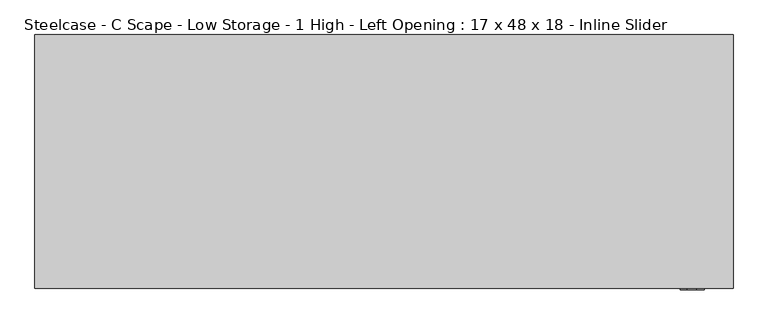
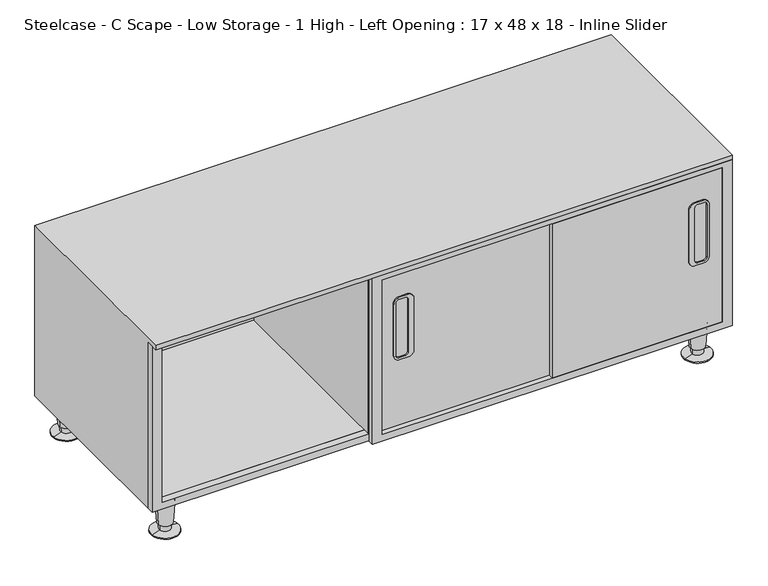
"""IFC4 building model written with IfcOpenShell, lengths in millimetres: furniture geometry, Steelcase - C Scape - Low Storage - 1 High - Left Opening : 17 x 48 x 18 - Inline Slider."""

import ifcopenshell
import ifcopenshell.guid

model = None  # the IFC model being written
_history = None  # IfcOwnerHistory: only IFC2X3 demands one
_inside = {}  # id of a spatial element -> (the spatial element, [elements in it])
_under = {}  # id of a project, library or spatial element -> (it, [spatial elements below it])
_declared = {}  # id of a project -> (the project, [libraries it declares])
_typed = {}  # id of a type object -> (the type object, [elements of that type])
_made_of = {}  # id of a material, layer set ... -> (it, [elements and type objects made of it])


def new_model(schema):
    """Start an empty IFC model of exactly this schema.

    Asked for "IFC4X3", IfcOpenShell would pick the latest addendum, in which some entities
    have other attributes; the version numbers below select the first issue.
    IFC2X3 requires an IfcOwnerHistory on every rooted entity: one is made here for all.
    """
    global model, _history
    if schema == "IFC4X3":
        model = ifcopenshell.file(schema_version=(4, 3, 0, 0))
    else:
        model = ifcopenshell.file(schema=schema)
    _inside.clear()
    _under.clear()
    _declared.clear()
    _typed.clear()
    _made_of.clear()
    _history = None
    if model.schema == "IFC2X3":
        org = make("IfcOrganization", Name="unknown")
        user = make(
            "IfcPersonAndOrganization",
            ThePerson=make("IfcPerson", FamilyName="unknown"),
            TheOrganization=org,
        )
        app = make(
            "IfcApplication",
            ApplicationDeveloper=org,
            Version="unknown",
            ApplicationFullName="unknown",
            ApplicationIdentifier="unknown",
        )
        _history = make(
            "IfcOwnerHistory",
            OwningUser=user,
            OwningApplication=app,
            ChangeAction="ADDED",
            CreationDate=0,
        )
    return model


def make(cls, **values):
    """One entity of the class cls with the attributes given. An attribute that is None is left unset."""
    return model.create_entity(
        cls, **{name: value for name, value in values.items() if value is not None}
    )


def rooted(cls, **values):
    """An entity with a GlobalId (a new one), such as an element, a storey or a relation."""
    return make(cls, GlobalId=ifcopenshell.guid.new(), OwnerHistory=_history, **values)


def si_unit(unit_type, name, prefix=None):
    """IfcSIUnit, for example si_unit("LENGTHUNIT", "METRE", prefix="MILLI")."""
    return make("IfcSIUnit", UnitType=unit_type, Prefix=prefix, Name=name)


def assignment(units):
    """IfcUnitAssignment: the units of a project."""
    return None if units is None else make("IfcUnitAssignment", Units=units)


def point(xyz):
    """IfcCartesianPoint."""
    return None if xyz is None else make("IfcCartesianPoint", Coordinates=xyz)


def direction(xyz):
    """IfcDirection."""
    return None if xyz is None else make("IfcDirection", DirectionRatios=xyz)


def frame(location, z_axis=None, x_axis=None):
    """IfcAxis2Placement3D, a coordinate frame: its origin and axes. An axis left out is left unset."""
    return make(
        "IfcAxis2Placement3D",
        Location=point(location),
        Axis=direction(z_axis),
        RefDirection=direction(x_axis),
    )


def frame_2d(location, x_axis=None):
    """IfcAxis2Placement2D, a coordinate frame in the plane: its origin and x axis."""
    return make(
        "IfcAxis2Placement2D", Location=point(location), RefDirection=direction(x_axis)
    )


def origin():
    """The frame at (0, 0, 0) with its axes left unset."""
    return frame((0.0, 0.0, 0.0))


def place(relative_to, where):
    """IfcLocalPlacement: puts the frame where relative to a parent placement (None: the world)."""
    return make(
        "IfcLocalPlacement", PlacementRelTo=relative_to, RelativePlacement=where
    )


def context(
    kind, dimensions, precision=None, world=None, true_north=None, identifier=None
):
    """IfcGeometricRepresentationContext, for example the 3D "Model" context."""
    return make(
        "IfcGeometricRepresentationContext",
        ContextIdentifier=identifier,
        ContextType=kind,
        CoordinateSpaceDimension=dimensions,
        Precision=precision,
        WorldCoordinateSystem=world,
        TrueNorth=true_north,
    )


def project(units=None, contexts=None):
    """IfcProject with its units and contexts."""
    return rooted(
        "IfcProject",
        Name="project",
        RepresentationContexts=contexts,
        UnitsInContext=assignment(units),
    )


def spatial(cls, under=None, at=None, **own):
    """A site, building, storey or space (cls), placed at a placement, below another one or the project."""
    s = rooted(cls, ObjectPlacement=at, **own)
    if under is not None:
        _under.setdefault(under.id(), (under, []))[1].append(s)
    return s


def polyline(points):
    """IfcPolyline through the points."""
    return make("IfcPolyline", Points=[point(p) for p in points])


def circle_curve(where, radius):
    """IfcCircle in the frame where."""
    return make("IfcCircle", Position=where, Radius=radius)


def trimmed(basis, trim1, trim2, sense, master):
    """IfcTrimmedCurve: the piece of a basis curve between two trims."""
    return make(
        "IfcTrimmedCurve",
        BasisCurve=basis,
        Trim1=trim1,
        Trim2=trim2,
        SenseAgreement=sense,
        MasterRepresentation=master,
    )


def segment(curve, same_sense, transition):
    """IfcCompositeCurveSegment."""
    return make(
        "IfcCompositeCurveSegment",
        Transition=transition,
        SameSense=same_sense,
        ParentCurve=curve,
    )


def composite_curve(segments, self_intersect=None):
    """IfcCompositeCurve: segments joined end to end."""
    return make("IfcCompositeCurve", Segments=segments, SelfIntersect=self_intersect)


def outline(outer, holes=None, kind="AREA"):
    """IfcArbitraryClosedProfileDef: a profile drawn as a closed curve; with holes, ...WithVoids."""
    if holes is None:
        return make("IfcArbitraryClosedProfileDef", ProfileType=kind, OuterCurve=outer)
    return make(
        "IfcArbitraryProfileDefWithVoids",
        ProfileType=kind,
        OuterCurve=outer,
        InnerCurves=holes,
    )


def extrude(swept, where, along, depth):
    """IfcExtrudedAreaSolid: the profile swept, set in the frame where, extruded along a direction by depth."""
    return make(
        "IfcExtrudedAreaSolid",
        SweptArea=swept,
        Position=where,
        ExtrudedDirection=direction(along),
        Depth=depth,
    )


def faces_of(points, faces, orient=None, outer=None):
    """IfcFace entities. A face is a list of loops; a loop is a list of indices into points, from 0.

    orient and outer hold one flag for each loop. By default every Orientation is true, the
    first loop of a face is its IfcFaceOuterBound and the others are IfcFaceBound.
    """
    made = []
    for i, loops in enumerate(faces):
        bounds = []
        for j, loop in enumerate(loops):
            is_outer = j == 0 if outer is None else outer[i][j]
            bounds.append(
                make(
                    "IfcFaceOuterBound" if is_outer else "IfcFaceBound",
                    Bound=make("IfcPolyLoop", Polygon=[points[k] for k in loop]),
                    Orientation=True if orient is None else orient[i][j],
                )
            )
        made.append(make("IfcFace", Bounds=bounds))
    return made


def faceted_brep(points, faces, orient=None, outer=None, voids=None):
    """IfcFacetedBrep: a solid bounded by flat faces; with voids (closed shells), ...WithVoids."""
    shared = [point(p) for p in points]
    hull = make("IfcClosedShell", CfsFaces=faces_of(shared, faces, orient, outer))
    if voids is None:
        return make("IfcFacetedBrep", Outer=hull)
    return make(
        "IfcFacetedBrepWithVoids",
        Outer=hull,
        Voids=[
            make(cls, CfsFaces=faces_of(shared, fs, o, b)) for cls, fs, o, b in voids
        ],
    )


def shape(context_of_items, identifier, shape_type, items):
    """IfcShapeRepresentation: the items that make up one representation, for example the "Body"."""
    return make(
        "IfcShapeRepresentation",
        ContextOfItems=context_of_items,
        RepresentationIdentifier=identifier,
        RepresentationType=shape_type,
        Items=items,
    )


def source(mapping_origin, context_of_items, identifier, shape_type, items):
    """IfcRepresentationMap: a shape defined once, which mapped items show again and again."""
    return make(
        "IfcRepresentationMap",
        MappingOrigin=mapping_origin,
        MappedRepresentation=shape(context_of_items, identifier, shape_type, items),
    )


def transform(
    local_origin,
    x_axis=None,
    y_axis=None,
    z_axis=None,
    scale=None,
    scale2=None,
    scale3=None,
    uniform=True,
):
    """IfcCartesianTransformationOperator3D, or its non-uniform kind. x_axis, y_axis, z_axis: its Axis1, 2, 3."""
    if uniform:
        return make(
            "IfcCartesianTransformationOperator3D",
            Axis1=direction(x_axis),
            Axis2=direction(y_axis),
            LocalOrigin=point(local_origin),
            Scale=scale,
            Axis3=direction(z_axis),
        )
    return make(
        "IfcCartesianTransformationOperator3DnonUniform",
        Axis1=direction(x_axis),
        Axis2=direction(y_axis),
        LocalOrigin=point(local_origin),
        Scale=scale,
        Axis3=direction(z_axis),
        Scale2=scale2,
        Scale3=scale3,
    )


def mapped(mapping_source, mapping_target):
    """IfcMappedItem: shows the shape of a source again, moved by a transform."""
    return make(
        "IfcMappedItem", MappingSource=mapping_source, MappingTarget=mapping_target
    )


def made_of(thing, what):
    """Note that an element or type object is made of a material, layer set ...; save() writes the relation."""
    if what is not None:
        _made_of.setdefault(what.id(), (what, []))[1].append(thing)
    return thing


def element(
    cls,
    number,
    at=None,
    inside=None,
    cuts=None,
    type_object=None,
    material=None,
    context=None,
    identifier="Body",
    shape_type=None,
    held_by="IfcProductDefinitionShape",
    body=None,
    shapes=None,
    **own,
):
    """One element of the class cls, such as IfcWall. Its Tag is "e" and its number.

    at: its placement. inside: the storey or other place that contains it. cuts: it is an
    opening in that element (IfcRelVoidsElement). A single representation is given by context,
    identifier, shape_type and body (its items); several are given by shapes. held_by: the class
    of the entity that holds the representations. save() writes the other relations.
    """
    e = rooted(cls, Tag="e%d" % number, ObjectPlacement=at, **own)
    if body is not None:
        shapes = [shape(context, identifier, shape_type, body)]
    if shapes is not None:
        e.Representation = make(held_by, Representations=shapes)
    if inside is not None:
        _inside.setdefault(inside.id(), (inside, []))[1].append(e)
    if cuts is not None:
        rooted(
            "IfcRelVoidsElement", RelatingBuildingElement=cuts, RelatedOpeningElement=e
        )
    if type_object is not None:
        _typed.setdefault(type_object.id(), (type_object, []))[1].append(e)
    return made_of(e, material)


def aggregate(whole, parts):
    """IfcRelAggregates: a whole, such as a stair, and the parts it consists of."""
    return rooted("IfcRelAggregates", RelatingObject=whole, RelatedObjects=parts)


def save(model, path):
    """Write the relations noted so far, then the file.

    IfcRelAggregates (storeys below a building ...), IfcRelContainedInSpatialStructure (elements
    in a storey), IfcRelDefinesByType, IfcRelAssociatesMaterial and IfcRelDeclares: one each for
    every whole, place, type object, material and project.
    """
    for whole, parts in _under.values():
        aggregate(whole, parts)
    for where, things in _inside.values():
        rooted(
            "IfcRelContainedInSpatialStructure",
            RelatedElements=things,
            RelatingStructure=where,
        )
    for kind, things in _typed.values():
        rooted("IfcRelDefinesByType", RelatedObjects=things, RelatingType=kind)
    for what, things in _made_of.values():
        rooted("IfcRelAssociatesMaterial", RelatedObjects=things, RelatingMaterial=what)
    for by, libraries in _declared.values():
        rooted("IfcRelDeclares", RelatingContext=by, RelatedDefinitions=libraries)
    model.write(path)


def plane_surface(at):
    """IfcPlane: the flat surface through the origin of the frame at, square to its z axis."""
    return make("IfcPlane", Position=at)


def cylinder_surface(at, radius):
    """IfcCylindricalSurface: all points at the distance radius from the z axis of the frame at."""
    return make("IfcCylindricalSurface", Position=at, Radius=radius)


def revolved_surface(curve, axis_point, axis_direction):
    """IfcSurfaceOfRevolution: the curve turned about the line through axis_point along axis_direction."""
    return make(
        "IfcSurfaceOfRevolution",
        SweptCurve=make("IfcArbitraryOpenProfileDef", ProfileType="CURVE", Curve=curve),
        AxisPosition=make("IfcAxis1Placement", Location=point(axis_point), Axis=direction(axis_direction)),
    )


def advanced_brep(points, edges, surfaces, faces):
    """IfcAdvancedBrep: a solid bounded by faces that lie on surfaces and meet in shared edges.

    An edge is (start, end): straight between two places in points (the first is 0);
    or (start, end, curve); or (start, end, curve, False) where it runs against its curve.
    A face is (place in surfaces, loops), or (place, loops, False) where it looks against
    its surface's normal. A loop lists edges by number (the first is 1), with a minus sign
    where the edge is run from its end to its start. The first loop is the outer one.
    """
    corners = [point(p) for p in points]
    vertices = [make("IfcVertexPoint", VertexGeometry=c) for c in corners]
    made = []
    for start, end, *more in edges:
        made.append(
            make(
                "IfcEdgeCurve",
                EdgeStart=vertices[start],
                EdgeEnd=vertices[end],
                EdgeGeometry=more[0] if more else make("IfcPolyline", Points=[corners[start], corners[end]]),
                SameSense=more[1] if len(more) > 1 else True,
            )
        )
    hull = []
    for where, loops, *sense in faces:
        bounds = []
        for j, loop in enumerate(loops):
            ring = [make("IfcOrientedEdge", EdgeElement=made[abs(k) - 1], Orientation=k > 0) for k in loop]
            bounds.append(
                make(
                    "IfcFaceOuterBound" if j == 0 else "IfcFaceBound",
                    Bound=make("IfcEdgeLoop", EdgeList=ring),
                    Orientation=True,
                )
            )
        hull.append(make("IfcAdvancedFace", Bounds=bounds, FaceSurface=surfaces[where], SameSense=sense[0] if sense else True))
    return make("IfcAdvancedBrep", Outer=make("IfcClosedShell", CfsFaces=hull))


def steelcase_c_scape_low_storage_1_high_left_opening_17_x_48_x_6d4769d7(model_context):
    return source(origin(), model_context, "Body", "SolidModel", [
        extrude(outline(polyline([(447.0400097, 1217.93), (447.0400097, 457.1996899), (76.2, 457.1996899), (76.2, 1217.93), (447.0400097, 1217.93)]), holes=[polyline([(91.44, 1196.5917676), (91.44, 478.7877454), (436.2787937, 478.7877454), (436.2787937, 1196.5917676), (91.44, 1196.5917676)])]), frame((0.0, -442.5949322, 0.0), z_axis=(0.0, 1.0, 0.0), x_axis=(0.0, 0.0, 1.0)), (0.0, 0.0, 1.0), 10.5409322),
        extrude(outline(composite_curve([segment(trimmed(circle_curve(frame_2d((366.3470063, 1154.9398205)), 12.6992249), [point((366.3470063, 1167.6390454))], [point((379.0462312, 1154.9398205))], False, "CARTESIAN"), True, "CONTINUOUS"), segment(polyline([(379.0462312, 1154.9398205), (379.0462312, 1138.0478284)]), True, "CONTINUOUS"), segment(trimmed(circle_curve(frame_2d((366.3470063, 1138.0478284)), 12.6992249), [point((379.0462312, 1138.0478284))], [point((366.3470063, 1125.3486035))], False, "CARTESIAN"), True, "CONTINUOUS"), segment(polyline([(366.3470063, 1125.3486035), (251.6988661, 1125.3486035)]), True, "CONTINUOUS"), segment(trimmed(circle_curve(frame_2d((251.6988661, 1137.7059622)), 12.3573587), [point((251.6988661, 1125.3486035))], [point((239.3462372, 1138.0478284))], False, "CARTESIAN"), True, "CONTINUOUS"), segment(polyline([(239.3462372, 1138.0478284), (239.3462372, 1154.9398205)]), True, "CONTINUOUS"), segment(trimmed(circle_curve(frame_2d((252.0454621, 1154.9398205)), 12.6992249), [point((239.3462372, 1154.9398205))], [point((252.0454621, 1167.6390454))], False, "CARTESIAN"), True, "CONTINUOUS"), segment(polyline([(252.0454621, 1167.6390454), (366.3470063, 1167.6390454)]), True, "CONTINUOUS")], self_intersect=False), holes=[composite_curve([segment(polyline([(250.520973, 1137.4129834), (367.8674077, 1137.4129834)]), True, "CONTINUOUS"), segment(trimmed(circle_curve(frame_2d((367.8674077, 1143.7637585)), 6.3507751), [point((367.8674077, 1137.4129834))], [point((374.2181828, 1143.7637585))], True, "CARTESIAN"), True, "CONTINUOUS"), segment(polyline([(374.2181828, 1143.7637585), (374.2181828, 1156.4629834)]), True, "CONTINUOUS"), segment(trimmed(circle_curve(frame_2d((367.8674077, 1156.4629834)), 6.3507751), [point((374.2181828, 1156.4629834))], [point((367.8674077, 1162.8137585))], True, "CARTESIAN"), True, "CONTINUOUS"), segment(polyline([(367.8674077, 1162.8137585), (250.520973, 1162.8137585)]), True, "CONTINUOUS"), segment(trimmed(circle_curve(frame_2d((250.520973, 1156.4629834)), 6.3507751), [point((250.520973, 1162.8137585))], [point((244.1701979, 1156.4629834))], True, "CARTESIAN"), True, "CONTINUOUS"), segment(polyline([(244.1701979, 1156.4629834), (244.1701979, 1143.7637585)]), True, "CONTINUOUS"), segment(trimmed(circle_curve(frame_2d((250.520973, 1143.7637585)), 6.3507751), [point((244.1701979, 1143.7637585))], [point((250.520973, 1137.4129834))], True, "CARTESIAN"), True, "CONTINUOUS")], self_intersect=False)]), frame((0.0, -445.643, 0.0), z_axis=(0.0, 1.0, 0.0), x_axis=(0.0, 0.0, 1.0)), (0.0, 0.0, 1.0), 3.0480678),
        extrude(outline(composite_curve([segment(polyline([(366.3470063, 507.4906445), (252.0454621, 507.4906445)]), True, "CONTINUOUS"), segment(trimmed(circle_curve(frame_2d((252.0454621, 520.1898694)), 12.6992249), [point((252.0454621, 507.4906445))], [point((239.3462372, 520.1898694))], False, "CARTESIAN"), True, "CONTINUOUS"), segment(polyline([(239.3462372, 520.1898694), (239.3462372, 537.0818616)]), True, "CONTINUOUS"), segment(trimmed(circle_curve(frame_2d((251.6988661, 537.4237278)), 12.3573587), [point((239.3462372, 537.0818616))], [point((251.6988661, 549.7810864))], False, "CARTESIAN"), True, "CONTINUOUS"), segment(polyline([(251.6988661, 549.7810864), (366.3470063, 549.7810864)]), True, "CONTINUOUS"), segment(trimmed(circle_curve(frame_2d((366.3470063, 537.0818616)), 12.6992249), [point((366.3470063, 549.7810864))], [point((379.0462312, 537.0818616))], False, "CARTESIAN"), True, "CONTINUOUS"), segment(polyline([(379.0462312, 537.0818616), (379.0462312, 520.1898694)]), True, "CONTINUOUS"), segment(trimmed(circle_curve(frame_2d((366.3470063, 520.1898694)), 12.6992249), [point((379.0462312, 520.1898694))], [point((366.3470063, 507.4906445))], False, "CARTESIAN"), True, "CONTINUOUS")], self_intersect=False), holes=[composite_curve([segment(trimmed(circle_curve(frame_2d((250.520973, 531.3659314)), 6.3507751), [point((250.520973, 537.7167066))], [point((244.1701979, 531.3659314))], True, "CARTESIAN"), True, "CONTINUOUS"), segment(polyline([(244.1701979, 531.3659314), (244.1701979, 518.6667066)]), True, "CONTINUOUS"), segment(trimmed(circle_curve(frame_2d((250.520973, 518.6667066)), 6.3507751), [point((244.1701979, 518.6667066))], [point((250.520973, 512.3159314))], True, "CARTESIAN"), True, "CONTINUOUS"), segment(polyline([(250.520973, 512.3159314), (367.8674077, 512.3159314)]), True, "CONTINUOUS"), segment(trimmed(circle_curve(frame_2d((367.8674077, 518.6667066)), 6.3507751), [point((367.8674077, 512.3159314))], [point((374.2181828, 518.6667066))], True, "CARTESIAN"), True, "CONTINUOUS"), segment(polyline([(374.2181828, 518.6667066), (374.2181828, 531.3659314)]), True, "CONTINUOUS"), segment(trimmed(circle_curve(frame_2d((367.8674077, 531.3659314)), 6.3507751), [point((374.2181828, 531.3659314))], [point((367.8674077, 537.7167066))], True, "CARTESIAN"), True, "CONTINUOUS"), segment(polyline([(367.8674077, 537.7167066), (250.520973, 537.7167066)]), True, "CONTINUOUS")], self_intersect=False)]), frame((0.0, -435.0550827, 0.0), z_axis=(0.0, 1.0, 0.0), x_axis=(0.0, 0.0, 1.0)), (0.0, 0.0, 1.0), 3.0010827),
        extrude(outline(polyline([(447.0400097, 1217.93), (447.0400097, -0.0013237), (76.2, -0.0013237), (76.2, 1217.93), (447.0400097, 1217.93)]), holes=[polyline([(91.44, 21.3369088), (436.2449927, 21.3369088), (436.2449927, 1196.5917676), (91.44, 1196.5917676), (91.44, 21.3369088)])]), frame((0.0, -428.8790543, 0.0), z_axis=(0.0, 1.0, 0.0), x_axis=(0.0, 0.0, 1.0)), (0.0, 0.0, 1.0), 14.986226),
        advanced_brep(
        [(1190.0494568, -31.5218435, 76.2), (1152.3877179, -37.2840847, 76.2), (1171.2185874, -34.4029641, 76.2), (1186.0991088, -32.1262463, 19.05), (1156.3380659, -36.6796819, 19.05), (1183.6695219, -32.4979728, 19.05), (1158.7676529, -36.3079555, 19.05), (1182.9807524, -32.6033544, 5.7545598), (1159.4564224, -36.2025738, 5.7545598), (1200.3296359, -29.9489775, 2.5119506), (1142.1075389, -38.8569507, 2.5119506), (1200.3296359, -29.9489775, 0.0), (1142.1075389, -38.8569507, 0.0), (1171.2185874, -34.4029641, 0.0)],
        [
            (0, 1, circle_curve(frame((1171.2185874, -34.4029641, 76.2), z_axis=(0.0, 0.0, 1.0), x_axis=(0.0, -1.0, 0.0)), 19.05)),
            (1, 2),
            (2, 0),
            (1, 0, circle_curve(frame((1171.2185874, -34.4029641, 76.2), z_axis=(0.0, 0.0, 1.0), x_axis=(0.0, -1.0, 0.0)), 19.05)),
            (3, 4, circle_curve(frame((1171.2185874, -34.4029641, 19.05), z_axis=(0.0, 0.0, 1.0), x_axis=(0.0, -1.0, 0.0)), 15.0536827)),
            (4, 1),
            (0, 3),
            (4, 3, circle_curve(frame((1171.2185874, -34.4029641, 19.05), z_axis=(0.0, 0.0, 1.0), x_axis=(0.0, -1.0, 0.0)), 15.0536827)),
            (5, 6, circle_curve(frame((1171.2185874, -34.4029641, 19.05), z_axis=(0.0, 0.0, 1.0), x_axis=(0.0, -1.0, 0.0)), 12.5958232)),
            (6, 4),
            (3, 5),
            (6, 5, circle_curve(frame((1171.2185874, -34.4029641, 19.05), z_axis=(0.0, 0.0, 1.0), x_axis=(0.0, -1.0, 0.0)), 12.5958232)),
            (7, 8, circle_curve(frame((1171.2185874, -34.4029641, 5.7545598), z_axis=(0.0, 0.0, 1.0), x_axis=(0.0, -1.0, 0.0)), 11.8990387)),
            (8, 6),
            (5, 7),
            (8, 7, circle_curve(frame((1171.2185874, -34.4029641, 5.7545598), z_axis=(0.0, 0.0, 1.0), x_axis=(0.0, -1.0, 0.0)), 11.8990387)),
            (9, 10, circle_curve(frame((1171.2185874, -34.4029641, 2.5119506), z_axis=(0.0, 0.0, 1.0), x_axis=(0.0, -1.0, 0.0)), 29.4498071)),
            (10, 8),
            (7, 9),
            (10, 9, circle_curve(frame((1171.2185874, -34.4029641, 2.5119506), z_axis=(0.0, 0.0, 1.0), x_axis=(0.0, -1.0, 0.0)), 29.4498071)),
            (11, 12, circle_curve(frame((1171.2185874, -34.4029641, 0.0), z_axis=(0.0, 0.0, 1.0), x_axis=(0.0, -1.0, 0.0)), 29.4498071)),
            (12, 10),
            (9, 11),
            (12, 11, circle_curve(frame((1171.2185874, -34.4029641, 0.0), z_axis=(0.0, 0.0, 1.0), x_axis=(0.0, -1.0, 0.0)), 29.4498071)),
            (13, 12),
            (11, 13),
        ],
        [
            plane_surface(frame((1171.2185874, -34.4029641, 76.2), z_axis=(0.0, 0.0, 1.0), x_axis=(0.0, -1.0, 0.0))),
            revolved_surface(polyline([(1171.2185874, -53.4529641, 76.2), (1171.2185874, -49.4566468, 19.05)]), (1171.2185874, -34.4029641, 25.4), (0.0, 0.0, -1.0)),
            plane_surface(frame((1171.2185874, -34.4029641, 19.05), z_axis=(0.0, 0.0, -1.0), x_axis=(0.0, -1.0, 0.0))),
            revolved_surface(polyline([(1171.2185874, -46.9987873, 19.05), (1171.2185874, -46.3020028, 5.7545598)]), (1171.2185874, -34.4029641, 25.4), (0.0, 0.0, -1.0)),
            revolved_surface(polyline([(1171.2185874, -46.3020028, 5.7545598), (1171.2185874, -63.8527712, 2.5119506)]), (1171.2185874, -34.4029641, 25.4), (0.0, 0.0, -1.0)),
            cylinder_surface(frame((1171.2185874, -34.4029641, 25.4), z_axis=(0.0, 0.0, -1.0), x_axis=(0.0, -1.0, 0.0)), 29.4498071),
            plane_surface(frame((1171.2185874, -34.4029641, 0.0), z_axis=(0.0, 0.0, -1.0), x_axis=(0.0, -1.0, 0.0))),
        ],
        [
            (0, [[1, 2, 3]]),
            (0, [[4, -3, -2]]),
            (1, [[5, 6, -1, 7]]),
            (1, [[8, -7, -4, -6]]),
            (2, [[9, 10, -5, 11]]),
            (2, [[12, -11, -8, -10]]),
            (3, [[13, 14, -9, 15]]),
            (3, [[16, -15, -12, -14]]),
            (4, [[17, 18, -13, 19]]),
            (4, [[20, -19, -16, -18]]),
            (5, [[21, 22, -17, 23]]),
            (5, [[24, -23, -20, -22]]),
            (6, [[25, -21, 26]]),
            (6, [[-26, -24, -25]]),
        ],
    ),
        advanced_brep(
        [(1190.0494568, -392.9793305, 76.2), (1152.3877179, -398.7415716, 76.2), (1171.2185874, -395.8604511, 76.2), (1186.0991088, -393.5837332, 19.05), (1156.3380659, -398.1371689, 19.05), (1183.6695219, -393.9554597, 19.05), (1158.7676529, -397.7654424, 19.05), (1182.9807524, -394.0608413, 5.7545598), (1159.4564224, -397.6600608, 5.7545598), (1200.3296359, -391.4064644, 2.5119506), (1142.1075389, -400.3144377, 2.5119506), (1200.3296359, -391.4064644, 0.0), (1142.1075389, -400.3144377, 0.0), (1171.2185874, -395.8604511, 0.0)],
        [
            (0, 1, circle_curve(frame((1171.2185874, -395.8604511, 76.2), z_axis=(0.0, 0.0, 1.0), x_axis=(0.0, -1.0, 0.0)), 19.05)),
            (1, 2),
            (2, 0),
            (1, 0, circle_curve(frame((1171.2185874, -395.8604511, 76.2), z_axis=(0.0, 0.0, 1.0), x_axis=(0.0, -1.0, 0.0)), 19.05)),
            (3, 4, circle_curve(frame((1171.2185874, -395.8604511, 19.05), z_axis=(0.0, 0.0, 1.0), x_axis=(0.0, -1.0, 0.0)), 15.0536827)),
            (4, 1),
            (0, 3),
            (4, 3, circle_curve(frame((1171.2185874, -395.8604511, 19.05), z_axis=(0.0, 0.0, 1.0), x_axis=(0.0, -1.0, 0.0)), 15.0536827)),
            (5, 6, circle_curve(frame((1171.2185874, -395.8604511, 19.05), z_axis=(0.0, 0.0, 1.0), x_axis=(0.0, -1.0, 0.0)), 12.5958232)),
            (6, 4),
            (3, 5),
            (6, 5, circle_curve(frame((1171.2185874, -395.8604511, 19.05), z_axis=(0.0, 0.0, 1.0), x_axis=(0.0, -1.0, 0.0)), 12.5958232)),
            (7, 8, circle_curve(frame((1171.2185874, -395.8604511, 5.7545598), z_axis=(0.0, 0.0, 1.0), x_axis=(0.0, -1.0, 0.0)), 11.8990387)),
            (8, 6),
            (5, 7),
            (8, 7, circle_curve(frame((1171.2185874, -395.8604511, 5.7545598), z_axis=(0.0, 0.0, 1.0), x_axis=(0.0, -1.0, 0.0)), 11.8990387)),
            (9, 10, circle_curve(frame((1171.2185874, -395.8604511, 2.5119506), z_axis=(0.0, 0.0, 1.0), x_axis=(0.0, -1.0, 0.0)), 29.4498071)),
            (10, 8),
            (7, 9),
            (10, 9, circle_curve(frame((1171.2185874, -395.8604511, 2.5119506), z_axis=(0.0, 0.0, 1.0), x_axis=(0.0, -1.0, 0.0)), 29.4498071)),
            (11, 12, circle_curve(frame((1171.2185874, -395.8604511, 0.0), z_axis=(0.0, 0.0, 1.0), x_axis=(0.0, -1.0, 0.0)), 29.4498071)),
            (12, 10),
            (9, 11),
            (12, 11, circle_curve(frame((1171.2185874, -395.8604511, 0.0), z_axis=(0.0, 0.0, 1.0), x_axis=(0.0, -1.0, 0.0)), 29.4498071)),
            (13, 12),
            (11, 13),
        ],
        [
            plane_surface(frame((1171.2185874, -395.8604511, 76.2), z_axis=(0.0, 0.0, 1.0), x_axis=(0.0, -1.0, 0.0))),
            revolved_surface(polyline([(1171.2185874, -414.9104511, 76.2), (1171.2185874, -410.9141338, 19.05)]), (1171.2185874, -395.8604511, 25.4), (0.0, 0.0, -1.0)),
            plane_surface(frame((1171.2185874, -395.8604511, 19.05), z_axis=(0.0, 0.0, -1.0), x_axis=(0.0, -1.0, 0.0))),
            revolved_surface(polyline([(1171.2185874, -408.4562742, 19.05), (1171.2185874, -407.7594897, 5.7545598)]), (1171.2185874, -395.8604511, 25.4), (0.0, 0.0, -1.0)),
            revolved_surface(polyline([(1171.2185874, -407.7594897, 5.7545598), (1171.2185874, -425.3102582, 2.5119506)]), (1171.2185874, -395.8604511, 25.4), (0.0, 0.0, -1.0)),
            cylinder_surface(frame((1171.2185874, -395.8604511, 25.4), z_axis=(0.0, 0.0, -1.0), x_axis=(0.0, -1.0, 0.0)), 29.4498071),
            plane_surface(frame((1171.2185874, -395.8604511, 0.0), z_axis=(0.0, 0.0, -1.0), x_axis=(0.0, -1.0, 0.0))),
        ],
        [
            (0, [[1, 2, 3]]),
            (0, [[4, -3, -2]]),
            (1, [[5, 6, -1, 7]]),
            (1, [[8, -7, -4, -6]]),
            (2, [[9, 10, -5, 11]]),
            (2, [[12, -11, -8, -10]]),
            (3, [[13, 14, -9, 15]]),
            (3, [[16, -15, -12, -14]]),
            (4, [[17, 18, -13, 19]]),
            (4, [[20, -19, -16, -18]]),
            (5, [[21, 22, -17, 23]]),
            (5, [[24, -23, -20, -22]]),
            (6, [[25, -21, 26]]),
            (6, [[-26, -24, -25]]),
        ],
    ),
        advanced_brep(
        [(64.9305458, -392.9793305, 76.2), (27.2688069, -398.7415716, 76.2), (46.0996763, -395.8604511, 76.2), (60.9801978, -393.5837332, 19.05), (31.2191549, -398.1371689, 19.05), (58.5506108, -393.9554597, 19.05), (33.6487419, -397.7654424, 19.05), (57.8618414, -394.0608413, 5.7545598), (34.3375113, -397.6600608, 5.7545598), (75.2107248, -391.4064644, 2.5119506), (16.9886279, -400.3144377, 2.5119506), (75.2107248, -391.4064644, 0.0), (16.9886279, -400.3144377, 0.0), (46.0996763, -395.8604511, 0.0)],
        [
            (0, 1, circle_curve(frame((46.0996763, -395.8604511, 76.2), z_axis=(0.0, 0.0, 1.0), x_axis=(0.0, -1.0, 0.0)), 19.05)),
            (1, 2),
            (2, 0),
            (1, 0, circle_curve(frame((46.0996763, -395.8604511, 76.2), z_axis=(0.0, 0.0, 1.0), x_axis=(0.0, -1.0, 0.0)), 19.05)),
            (3, 4, circle_curve(frame((46.0996763, -395.8604511, 19.05), z_axis=(0.0, 0.0, 1.0), x_axis=(0.0, -1.0, 0.0)), 15.0536827)),
            (4, 1),
            (0, 3),
            (4, 3, circle_curve(frame((46.0996763, -395.8604511, 19.05), z_axis=(0.0, 0.0, 1.0), x_axis=(0.0, -1.0, 0.0)), 15.0536827)),
            (5, 6, circle_curve(frame((46.0996763, -395.8604511, 19.05), z_axis=(0.0, 0.0, 1.0), x_axis=(0.0, -1.0, 0.0)), 12.5958232)),
            (6, 4),
            (3, 5),
            (6, 5, circle_curve(frame((46.0996763, -395.8604511, 19.05), z_axis=(0.0, 0.0, 1.0), x_axis=(0.0, -1.0, 0.0)), 12.5958232)),
            (7, 8, circle_curve(frame((46.0996763, -395.8604511, 5.7545598), z_axis=(0.0, 0.0, 1.0), x_axis=(0.0, -1.0, 0.0)), 11.8990387)),
            (8, 6),
            (5, 7),
            (8, 7, circle_curve(frame((46.0996763, -395.8604511, 5.7545598), z_axis=(0.0, 0.0, 1.0), x_axis=(0.0, -1.0, 0.0)), 11.8990387)),
            (9, 10, circle_curve(frame((46.0996763, -395.8604511, 2.5119506), z_axis=(0.0, 0.0, 1.0), x_axis=(0.0, -1.0, 0.0)), 29.4498071)),
            (10, 8),
            (7, 9),
            (10, 9, circle_curve(frame((46.0996763, -395.8604511, 2.5119506), z_axis=(0.0, 0.0, 1.0), x_axis=(0.0, -1.0, 0.0)), 29.4498071)),
            (11, 12, circle_curve(frame((46.0996763, -395.8604511, 0.0), z_axis=(0.0, 0.0, 1.0), x_axis=(0.0, -1.0, 0.0)), 29.4498071)),
            (12, 10),
            (9, 11),
            (12, 11, circle_curve(frame((46.0996763, -395.8604511, 0.0), z_axis=(0.0, 0.0, 1.0), x_axis=(0.0, -1.0, 0.0)), 29.4498071)),
            (13, 12),
            (11, 13),
        ],
        [
            plane_surface(frame((46.0996763, -395.8604511, 76.2), z_axis=(0.0, 0.0, 1.0), x_axis=(0.0, -1.0, 0.0))),
            revolved_surface(polyline([(46.0996763, -414.9104511, 76.2), (46.0996763, -410.9141338, 19.05)]), (46.0996763, -395.8604511, 25.4), (0.0, 0.0, -1.0)),
            plane_surface(frame((46.0996763, -395.8604511, 19.05), z_axis=(0.0, 0.0, -1.0), x_axis=(0.0, -1.0, 0.0))),
            revolved_surface(polyline([(46.0996763, -408.4562742, 19.05), (46.0996763, -407.7594897, 5.7545598)]), (46.0996763, -395.8604511, 25.4), (0.0, 0.0, -1.0)),
            revolved_surface(polyline([(46.0996763, -407.7594897, 5.7545598), (46.0996763, -425.3102582, 2.5119506)]), (46.0996763, -395.8604511, 25.4), (0.0, 0.0, -1.0)),
            cylinder_surface(frame((46.0996763, -395.8604511, 25.4), z_axis=(0.0, 0.0, -1.0), x_axis=(0.0, -1.0, 0.0)), 29.4498071),
            plane_surface(frame((46.0996763, -395.8604511, 0.0), z_axis=(0.0, 0.0, -1.0), x_axis=(0.0, -1.0, 0.0))),
        ],
        [
            (0, [[1, 2, 3]]),
            (0, [[4, -3, -2]]),
            (1, [[5, 6, -1, 7]]),
            (1, [[8, -7, -4, -6]]),
            (2, [[9, 10, -5, 11]]),
            (2, [[12, -11, -8, -10]]),
            (3, [[13, 14, -9, 15]]),
            (3, [[16, -15, -12, -14]]),
            (4, [[17, 18, -13, 19]]),
            (4, [[20, -19, -16, -18]]),
            (5, [[21, 22, -17, 23]]),
            (5, [[24, -23, -20, -22]]),
            (6, [[25, -21, 26]]),
            (6, [[-26, -24, -25]]),
        ],
    ),
        advanced_brep(
        [(64.9305458, -31.5218435, 76.2), (27.2688069, -37.2840847, 76.2), (46.0996763, -34.4029641, 76.2), (60.9801978, -32.1262463, 19.05), (31.2191549, -36.6796819, 19.05), (58.5506108, -32.4979728, 19.05), (33.6487419, -36.3079555, 19.05), (57.8618414, -32.6033544, 5.7545598), (34.3375113, -36.2025738, 5.7545598), (75.2107248, -29.9489775, 2.5119506), (16.9886279, -38.8569507, 2.5119506), (75.2107248, -29.9489775, 0.0), (16.9886279, -38.8569507, 0.0), (46.0996763, -34.4029641, 0.0)],
        [
            (0, 1, circle_curve(frame((46.0996763, -34.4029641, 76.2), z_axis=(0.0, 0.0, 1.0), x_axis=(0.0, -1.0, 0.0)), 19.05)),
            (1, 2),
            (2, 0),
            (1, 0, circle_curve(frame((46.0996763, -34.4029641, 76.2), z_axis=(0.0, 0.0, 1.0), x_axis=(0.0, -1.0, 0.0)), 19.05)),
            (3, 4, circle_curve(frame((46.0996763, -34.4029641, 19.05), z_axis=(0.0, 0.0, 1.0), x_axis=(0.0, -1.0, 0.0)), 15.0536827)),
            (4, 1),
            (0, 3),
            (4, 3, circle_curve(frame((46.0996763, -34.4029641, 19.05), z_axis=(0.0, 0.0, 1.0), x_axis=(0.0, -1.0, 0.0)), 15.0536827)),
            (5, 6, circle_curve(frame((46.0996763, -34.4029641, 19.05), z_axis=(0.0, 0.0, 1.0), x_axis=(0.0, -1.0, 0.0)), 12.5958232)),
            (6, 4),
            (3, 5),
            (6, 5, circle_curve(frame((46.0996763, -34.4029641, 19.05), z_axis=(0.0, 0.0, 1.0), x_axis=(0.0, -1.0, 0.0)), 12.5958232)),
            (7, 8, circle_curve(frame((46.0996763, -34.4029641, 5.7545598), z_axis=(0.0, 0.0, 1.0), x_axis=(0.0, -1.0, 0.0)), 11.8990387)),
            (8, 6),
            (5, 7),
            (8, 7, circle_curve(frame((46.0996763, -34.4029641, 5.7545598), z_axis=(0.0, 0.0, 1.0), x_axis=(0.0, -1.0, 0.0)), 11.8990387)),
            (9, 10, circle_curve(frame((46.0996763, -34.4029641, 2.5119506), z_axis=(0.0, 0.0, 1.0), x_axis=(0.0, -1.0, 0.0)), 29.4498071)),
            (10, 8),
            (7, 9),
            (10, 9, circle_curve(frame((46.0996763, -34.4029641, 2.5119506), z_axis=(0.0, 0.0, 1.0), x_axis=(0.0, -1.0, 0.0)), 29.4498071)),
            (11, 12, circle_curve(frame((46.0996763, -34.4029641, 0.0), z_axis=(0.0, 0.0, 1.0), x_axis=(0.0, -1.0, 0.0)), 29.4498071)),
            (12, 10),
            (9, 11),
            (12, 11, circle_curve(frame((46.0996763, -34.4029641, 0.0), z_axis=(0.0, 0.0, 1.0), x_axis=(0.0, -1.0, 0.0)), 29.4498071)),
            (13, 12),
            (11, 13),
        ],
        [
            plane_surface(frame((46.0996763, -34.4029641, 76.2), z_axis=(0.0, 0.0, 1.0), x_axis=(0.0, -1.0, 0.0))),
            revolved_surface(polyline([(46.0996763, -53.4529641, 76.2), (46.0996763, -49.4566468, 19.05)]), (46.0996763, -34.4029641, 25.4), (0.0, 0.0, -1.0)),
            plane_surface(frame((46.0996763, -34.4029641, 19.05), z_axis=(0.0, 0.0, -1.0), x_axis=(0.0, -1.0, 0.0))),
            revolved_surface(polyline([(46.0996763, -46.9987873, 19.05), (46.0996763, -46.3020028, 5.7545598)]), (46.0996763, -34.4029641, 25.4), (0.0, 0.0, -1.0)),
            revolved_surface(polyline([(46.0996763, -46.3020028, 5.7545598), (46.0996763, -63.8527712, 2.5119506)]), (46.0996763, -34.4029641, 25.4), (0.0, 0.0, -1.0)),
            cylinder_surface(frame((46.0996763, -34.4029641, 25.4), z_axis=(0.0, 0.0, -1.0), x_axis=(0.0, -1.0, 0.0)), 29.4498071),
            plane_surface(frame((46.0996763, -34.4029641, 0.0), z_axis=(0.0, 0.0, -1.0), x_axis=(0.0, -1.0, 0.0))),
        ],
        [
            (0, [[1, 2, 3]]),
            (0, [[4, -3, -2]]),
            (1, [[5, 6, -1, 7]]),
            (1, [[8, -7, -4, -6]]),
            (2, [[9, 10, -5, 11]]),
            (2, [[12, -11, -8, -10]]),
            (3, [[13, 14, -9, 15]]),
            (3, [[16, -15, -12, -14]]),
            (4, [[17, 18, -13, 19]]),
            (4, [[20, -19, -16, -18]]),
            (5, [[21, 22, -17, 23]]),
            (5, [[24, -23, -20, -22]]),
            (6, [[25, -21, 26]]),
            (6, [[-26, -24, -25]]),
        ],
    ),
        faceted_brep([(-0.0013237, 0.0, 76.2), (-0.0013237, -413.8928283, 76.2), (-0.0013237, -413.8928283, 447.0400097), (-0.0013237, -442.5949322, 447.0400097), (-0.0013237, -442.5949322, 457.2), (-0.0013237, 0.0, 457.2), (457.1996899, -413.8928283, 76.2), (457.1996899, -413.8928283, 91.44), (21.3369088, -413.8928283, 91.44), (21.3369088, -413.8928283, 447.0400097), (1217.93, -413.8928283, 76.2), (1217.93, -413.8928283, 447.0400097), (1196.5917676, -413.8928283, 447.0400097), (1196.5917676, -413.8928283, 91.44), (479.4277905, -413.8928283, 91.44), (479.4277905, -413.8928283, 76.2), (21.3369088, -9.525, 91.44), (21.3369088, -9.525, 447.0400097), (457.1996899, -9.525, 91.44), (457.1996899, -9.525, 447.0400097), (457.1996899, -428.8790543, 76.2), (457.1996899, -428.8790543, 447.0400097), (479.4277905, -428.8790543, 447.0400097), (479.4277905, -428.8790543, 76.2), (479.4277905, -9.525, 91.44), (479.4277905, -9.525, 447.0400097), (1196.5917676, -9.525, 91.44), (1196.5917676, -9.525, 447.0400097), (1217.93, 0.0, 76.2), (1217.93, 0.0, 457.2), (1217.93, -442.5949322, 457.2), (1217.93, -442.5949322, 447.0400097)], [[[0, 1, 2, 3, 4, 5]], [[2, 1, 6, 7, 8, 9]], [[10, 11, 12, 13, 14, 15]], [[9, 8, 16, 17]], [[17, 16, 18, 19]], [[20, 21, 19, 18, 7, 6]], [[22, 23, 15, 14, 24, 25]], [[25, 24, 26, 27]], [[27, 26, 13, 12]], [[10, 28, 29, 30, 31, 11]], [[29, 28, 0, 5]], [[8, 7, 18, 16]], [[14, 13, 26, 24]], [[5, 4, 30, 29]], [[31, 3, 2, 9, 17, 19, 21, 22, 25, 27, 12, 11]], [[0, 28, 10, 15, 23, 20, 6, 1]], [[20, 23, 22, 21]], [[30, 4, 3, 31]]]),
        extrude(outline(polyline([(837.564845, -432.054), (478.7877454, -432.054), (478.7877454, -426.7186111), (837.564845, -426.7186111), (837.564845, -432.054)])), frame((0.0, 0.0, 91.44), z_axis=(0.0, 0.0, 1.0), x_axis=(1.0, 0.0, 0.0)), (0.0, 0.0, 1.0), 344.8049927),
        extrude(outline(polyline([(837.564845, -432.054), (1196.5917676, -432.054), (1196.5917676, -442.5949322), (837.564845, -442.5949322), (837.564845, -432.054)])), frame((0.0, 0.0, 91.44), z_axis=(0.0, 0.0, 1.0), x_axis=(1.0, 0.0, 0.0)), (0.0, 0.0, 1.0), 344.8049927),
    ])


if __name__ == "__main__":
    model = new_model("IFC4")
    model_context = context("Model", 3, world=origin())
    ifc_project = project(units=[si_unit("LENGTHUNIT", "METRE", prefix="MILLI")], contexts=[model_context])
    site = spatial("IfcSite", under=ifc_project)
    building = spatial("IfcBuilding", under=site)
    placement = place(None, origin())
    steelcase_c_scape_low_storage_1_high_left_opening_17_x_48_x_shape = steelcase_c_scape_low_storage_1_high_left_opening_17_x_48_x_6d4769d7(model_context)
    element("IfcFurniture", 1, ObjectType="Steelcase - C Scape - Low Storage - 1 High - Left Opening : 17 x 48 x 18 - Inline Slider", at=placement, inside=building, context=model_context, shape_type="MappedRepresentation", body=[
        mapped(steelcase_c_scape_low_storage_1_high_left_opening_17_x_48_x_shape, transform((0.0, 0.0, 0.0), x_axis=(1.0, 0.0, 0.0), y_axis=(0.0, 1.0, 0.0), z_axis=(0.0, 0.0, 1.0))),
    ])
    save(model, "model.ifc")
